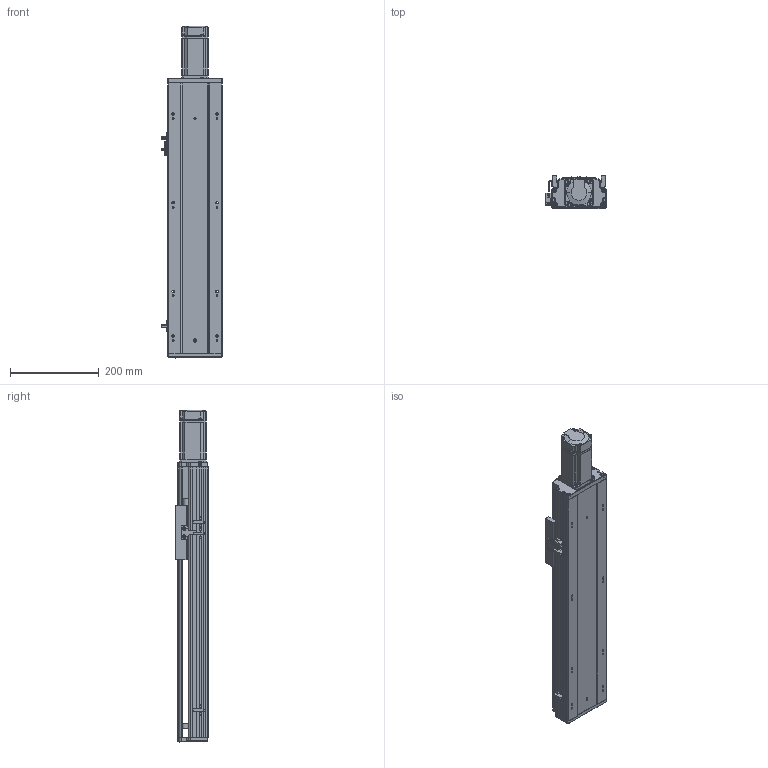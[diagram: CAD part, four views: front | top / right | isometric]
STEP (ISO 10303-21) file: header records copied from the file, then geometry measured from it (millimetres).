
FILE_DESCRIPTION (( 'STEP AP203' ), '1' );
FILE_NAME ('RY120Q-L1610-500-MK.SLDASM_0350.step', '2021-05-19T01:44:34', ( '盈信电脑' ), ( '东莞市道滘镇水果街19号' ), 'SwSTEP 2.0', 'SolidWorks 2016', '' );
FILE_SCHEMA (( 'CONFIG_CONTROL_DESIGN' ));
Length unit declared in the file: millimetre
Products named in the file (14): RY120萇儂釱FK12; 侂狟400W侜督萇儂; RY120綴裔啣; 滅袉蝶18-10; 滅袉蝶18-15; 鞠褒坶踡蹟譫BK12 ; RY120外置感应片(140共用）; RY120铝滑块16丝杆（FK12）; RY120Q-L1610-500-MK.SLDASM_0350; RY120-500-MK倰第奻裔啣_0350; 覜茼ん672; 15; RY120QGB-1.8; RY120-500-MK倰第菁釱_0350
Assembly tree (16 placements, depth 3):
  RY120Q-L1610-500-MK.SLDASM_0350
    RY120-500-MK倰第菁釱_0350
    RY120-500-MK倰第奻裔啣_0350
    侂狟400W侜督萇儂
      15
    鞠褒坶踡蹟譫BK12 
    RY120綴裔啣
    覜茼ん672  x3
    滅袉蝶18-10
    滅袉蝶18-15  x2
    RY120外置感应片(140共用）
    RY120QGB-1.8
    RY120铝滑块16丝杆（FK12）
    RY120萇儂釱FK12
Bounding box: 135.7 x 74 x 748.5 mm (x, y, z)
Volume: 2203111.1 mm3; surface area: 727866.5 mm2
Topology: 16 solids, 16 shells, 2108 faces, 5767 edges, 3686 vertices
Faces by surface type: plane 999, cylinder 791, cone 217, bspline 101
Entity records: 68737 total; most frequent: CARTESIAN_POINT 18921, ORIENTED_EDGE 10302, DIRECTION 9763, EDGE_CURVE 5151, VERTEX_POINT 3354, AXIS2_PLACEMENT_3D 3344, LINE 3075, VECTOR 3075
